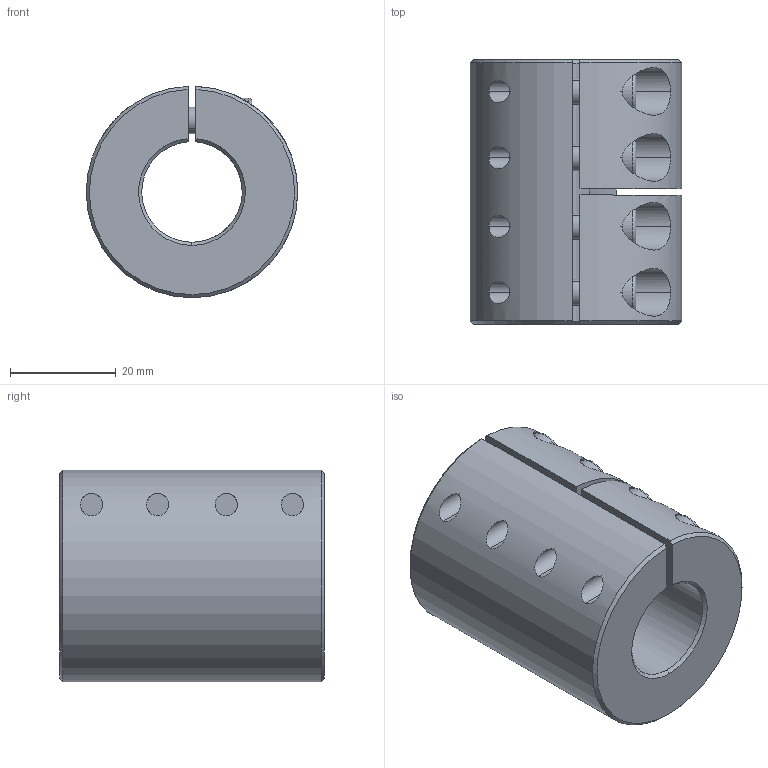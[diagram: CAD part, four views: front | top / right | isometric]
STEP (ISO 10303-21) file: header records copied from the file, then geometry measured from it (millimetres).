
FILE_DESCRIPTION (( 'STEP AP214' ), '1' );
FILE_NAME ('LL-B-D40L50-19-19½¨Ä£.STEP', '2022-07-22T00:28:20', ( '' ), ( '' ), 'SwSTEP 2.0', 'SolidWorks 2022', '' );
FILE_SCHEMA (( 'AUTOMOTIVE_DESIGN' ));
Length unit declared in the file: millimetre
Products named in the file (1): LL-B-D40L50-19-19膘耀
Bounding box: 40 x 50 x 39.99 mm (x, y, z)
Volume: 45872.7 mm3; surface area: 15382.3 mm2
Topology: 1 solids, 1 shells, 173 faces, 436 edges, 273 vertices
Faces by surface type: plane 83, cylinder 68, cone 14, torus 8
Entity records: 5707 total; most frequent: CARTESIAN_POINT 1459, DIRECTION 923, ORIENTED_EDGE 856, EDGE_CURVE 428, AXIS2_PLACEMENT_3D 361, VERTEX_POINT 273, EDGE_LOOP 205, LINE 201
